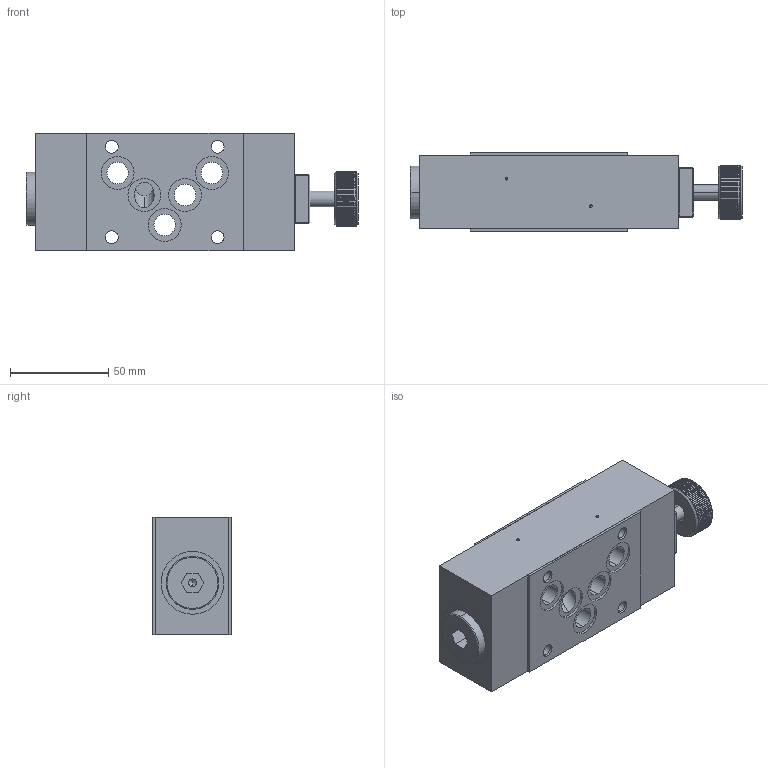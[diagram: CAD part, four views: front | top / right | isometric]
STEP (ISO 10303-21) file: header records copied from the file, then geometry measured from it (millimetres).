
FILE_DESCRIPTION (( 'STEP AP214' ), '1' );
FILE_NAME ('AAHB10_V.STEP', '2017-05-08T12:27:15', ( '' ), ( '' ), 'SwSTEP 2.0', 'SolidWorks 2016', '' );
FILE_SCHEMA (( 'AUTOMOTIVE_DESIGN' ));
Length unit declared in the file: millimetre
Products named in the file (1): AAHB10_V
Bounding box: 169.2 x 40 x 60 mm (x, y, z)
Volume: 298259.4 mm3; surface area: 64276.3 mm2
Topology: 8 solids, 11 shells, 598 faces, 1585 edges, 1019 vertices
Faces by surface type: cylinder 394, plane 144, cone 46, torus 10, sphere 4
Entity records: 27141 total; most frequent: CARTESIAN_POINT 5825, ORIENTED_EDGE 3134, DIRECTION 2959, EDGE_CURVE 1567, AXIS2_PLACEMENT_3D 1153, VERTEX_POINT 1019, EDGE_LOOP 698, LINE 653
